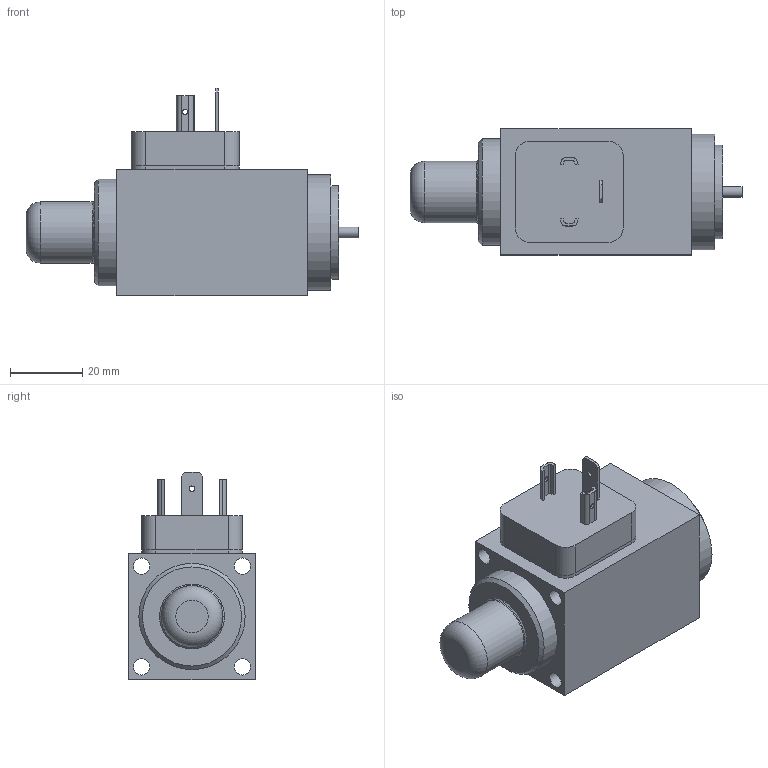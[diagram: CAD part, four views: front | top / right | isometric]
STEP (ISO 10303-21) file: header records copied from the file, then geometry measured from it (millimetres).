
FILE_DESCRIPTION(('Bauteilbeschreibung','HiCAD-Model','HiCAD-STEP-TRANSLATION','Bauteilbeschreibung'),'2;1');
FILE_NAME('K:/STEP_DXF/PI35V-M152.STP','2006-03-28T12:39:45+00:00',('Konstrukteur'),('Konstrukteur Firma GmbH'),'HiCAD3 V1210 STEP 1.6.2005','HiCAD3 V1210','confidential');
FILE_SCHEMA(('AUTOMOTIVE_DESIGN { 1 2 10303 214 0 1 1 1 }'));
Length unit declared in the file: millimetre
Products named in the file (9): PI35V_M152; PI35V0M152; AE262C28; DAB12417; DAB124170; DICHTUNG; A60BB411; PI35V_____M152; HB4_5_H44
Assembly tree (8 placements, depth 5):
  PI35V_M152
    PI35V0M152
      AE262C28
        DAB12417
        DAB124170
          DICHTUNG
        A60BB411
        PI35V_____M152
        HB4_5_H44
Bounding box: 92.2 x 35 x 57.5 mm (x, y, z)
Volume: 82373.6 mm3; surface area: 22920 mm2
Topology: 8 solids, 8 shells, 152 faces, 364 edges, 244 vertices
Faces by surface type: plane 78, cylinder 38, cone 30, torus 6
Full cylindrical faces by diameter (mm): 1.5 x3, 3 x4, 4.5 x4, 5 x1, 6.8 x1, 8 x2, 12 x1, 14 x1, 15 x1, 17 x1, 26 x1, 29.5 x1, 32 x1
Entity records: 8031 total; most frequent: CARTESIAN_POINT 1672, DIRECTION 716, ORIENTED_EDGE 630, COLOUR_RGB 472, PRESENTATION_STYLE_ASSIGNMENT 472, OVER_RIDING_STYLED_ITEM 467, CURVE_STYLE 315, DRAUGHTING_PRE_DEFINED_CURVE_FONT 315
